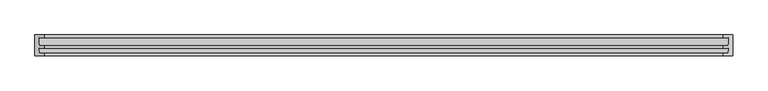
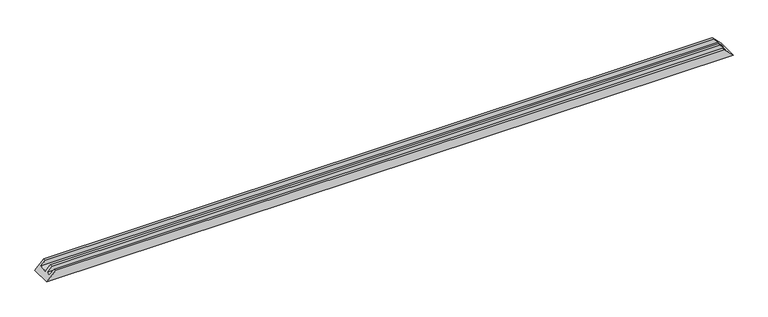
"""IFC4 building model written with IfcOpenShell, lengths in millimetres: proxy geometry, Weiku - Montante - Caixilho triplo 02.2.01.004 : Weiku - Montante - Caixilho triplo 02.2.01.004."""

from ifc_helpers import new_model, si_unit, origin, place, context, project, spatial, faceted_brep, source, transform, mapped, element, save


def generic_models_cd917cef(model_context):
    return source(origin(), model_context, "Body", "Brep", [
        faceted_brep([(-1969.0, -15.0, 26.0), (1969.0, -15.0, 26.0), (1943.0, -15.0, 52.0), (-1943.0, -15.0, 52.0), (-1971.2229744, -62.0, 23.7770256), (1971.2229744, -62.0, 23.7770256), (-1943.0, -62.0, 52.0), (1943.0, -62.0, 52.0), (-1943.0, -77.0, 52.0), (1943.0, -77.0, 52.0), (-1969.0, -77.0, 26.0), (1969.0, -77.0, 26.0), (-1995.0, -119.0, 0.0), (-1995.0, 0.0, 0.0), (1995.0, 0.0, 0.0), (1995.0, -119.0, 0.0), (-1943.0, 0.0, 52.0), (1943.0, 0.0, 52.0), (-1943.0, -119.0, 52.0), (-1943.0, -104.0, 52.0), (-1970.2770279, -104.0, 24.7229721), (1970.2770279, -104.0, 24.7229721), (1943.0, -104.0, 52.0), (1943.0, -119.0, 52.0)], [[[0, 1, 2, 3]], [[4, 5, 1, 0]], [[6, 7, 5, 4]], [[8, 9, 7, 6]], [[10, 11, 9, 8]], [[12, 13, 14, 15]], [[13, 16, 17, 14]], [[3, 2, 17, 16]], [[3, 16, 13, 12, 18, 19, 20, 10, 8, 6, 4, 0]], [[1, 5, 7, 9, 11, 21, 22, 23, 15, 14, 17, 2]], [[20, 21, 11, 10]], [[19, 22, 21, 20]], [[18, 23, 22, 19]], [[15, 23, 18, 12]]]),
    ])


if __name__ == "__main__":
    model = new_model("IFC4")
    model_context = context("Model", 3, world=origin())
    ifc_project = project(units=[si_unit("LENGTHUNIT", "METRE", prefix="MILLI")], contexts=[model_context])
    site = spatial("IfcSite", under=ifc_project)
    building = spatial("IfcBuilding", under=site)
    placement = place(None, origin())
    generic_models_shape = generic_models_cd917cef(model_context)
    element("IfcBuildingElementProxy", 1, Name="Weiku - Montante - Caixilho triplo 02.2.01.004 : Weiku - Montante - Caixilho triplo 02.2.01.004", ObjectType="Weiku - Montante - Caixilho triplo 02.2.01.004 : Weiku - Montante - Caixilho triplo 02.2.01.004", at=placement, inside=building, context=model_context, shape_type="MappedRepresentation", body=[
        mapped(generic_models_shape, transform((0.0, 0.0, 0.0), x_axis=(1.0, 0.0, 0.0), y_axis=(0.0, 1.0, 0.0), z_axis=(0.0, 0.0, 1.0))),
    ])
    save(model, "model.ifc")
